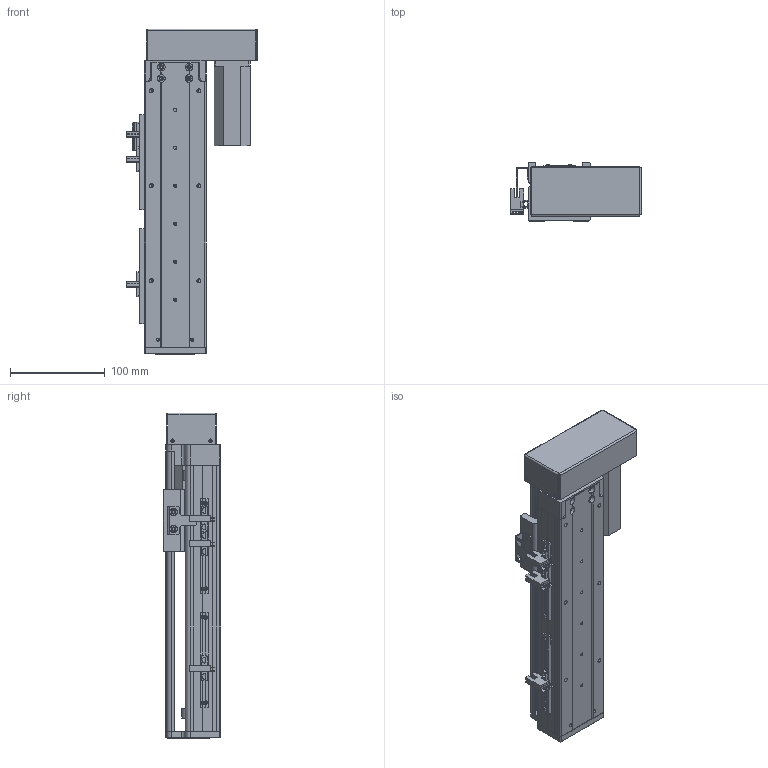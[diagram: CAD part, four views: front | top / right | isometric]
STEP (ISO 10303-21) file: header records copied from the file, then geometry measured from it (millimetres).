
FILE_DESCRIPTION (( 'STEP AP203' ), '1' );
FILE_NAME ('RY60-L1210-300-RK.SLDASM_150.step', '2021-02-20T06:52:26', ( '盈信电脑' ), ( '东莞市道滘镇水果街19号' ), 'SwSTEP 2.0', 'SolidWorks 2012', '' );
FILE_SCHEMA (( 'CONFIG_CONTROL_DESIGN' ));
Length unit declared in the file: millimetre
Products named in the file (13): RY60转折电机端支撑座; 覜茼ん672; RY60-L1210-300-RK.SLDASM_150; RY80俋离覜茼え; 672嫖萇羲壽假蚾釱; 侂狟100W; RY60酘衵殏萇儂欶; RY60左右折电机安装板; RY60-300倰第裔啣-RK_150; RY60綴裔啣; 滅袉蝶18-10; RY60-300倰第菁釱-RK_150; RY60臏賑輸
Assembly tree (18 placements, depth 2):
  RY60-L1210-300-RK.SLDASM_150
    RY60-300倰第菁釱-RK_150
    RY60臏賑輸
    RY60-300倰第裔啣-RK_150
    RY60綴裔啣
    滅袉蝶18-10  x4
    RY60转折电机端支撑座
    RY60左右折电机安装板
    侂狟100W
    RY60酘衵殏萇儂欶
    RY80俋离覜茼え
    672嫖萇羲壽假蚾釱  x2
    覜茼ん672  x3
Bounding box: 137.9 x 61 x 343 mm (x, y, z)
Volume: 586226.4 mm3; surface area: 282312.8 mm2
Topology: 18 solids, 18 shells, 1357 faces, 3755 edges, 2406 vertices
Faces by surface type: plane 689, cylinder 551, cone 100, bspline 17
Entity records: 39350 total; most frequent: CARTESIAN_POINT 8899, ORIENTED_EDGE 6094, DIRECTION 5957, EDGE_CURVE 3047, AXIS2_PLACEMENT_3D 2034, VERTEX_POINT 1986, VECTOR 1889, LINE 1889
